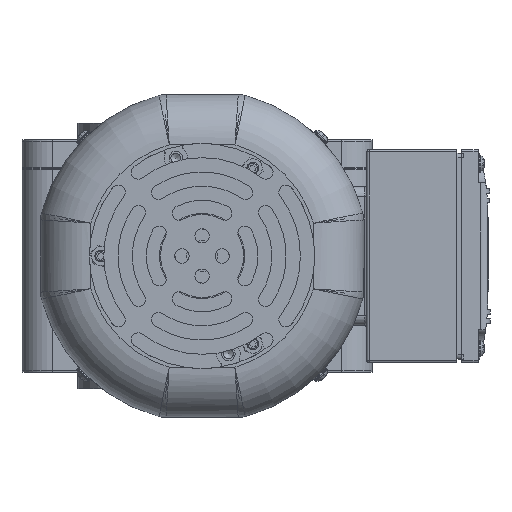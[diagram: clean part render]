
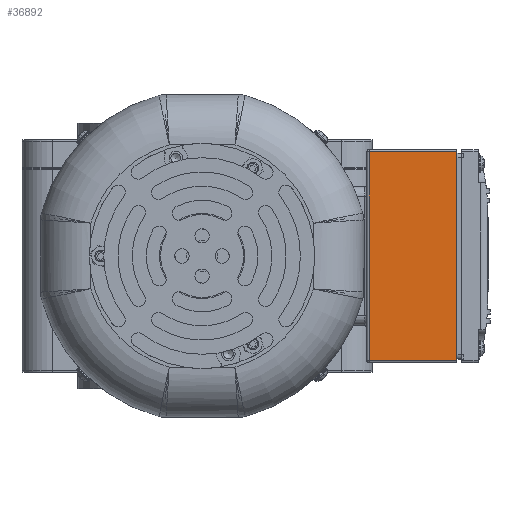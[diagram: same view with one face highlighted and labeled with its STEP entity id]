
A CAD part, left-side view. The second image highlights one B-rep face of the part: STEP entity #36892.
In plain terms, the highlighted planar face has unit normal (-1, 0, 0).
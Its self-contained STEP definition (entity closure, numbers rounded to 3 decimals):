
#3046=PLANE('',#39560);
#4257=FACE_OUTER_BOUND('',#6454,.T.);
#6454=EDGE_LOOP('',(#27611,#27612,#27613,#27614));
#9086=LINE('',#59134,#11839);
#9087=LINE('',#59136,#11840);
#9088=LINE('',#59138,#11841);
#9089=LINE('',#59139,#11842);
#11839=VECTOR('',#45667,10.);
#11840=VECTOR('',#45668,10.);
#11841=VECTOR('',#45669,10.);
#11842=VECTOR('',#45670,10.);
#16998=VERTEX_POINT('',#59132);
#16999=VERTEX_POINT('',#59133);
#17000=VERTEX_POINT('',#59135);
#17001=VERTEX_POINT('',#59137);
#20919=EDGE_CURVE('',#16998,#16999,#9086,.T.);
#20920=EDGE_CURVE('',#17000,#16998,#9087,.T.);
#20921=EDGE_CURVE('',#17000,#17001,#9088,.T.);
#20922=EDGE_CURVE('',#16999,#17001,#9089,.T.);
#27611=ORIENTED_EDGE('',*,*,#20919,.F.);
#27612=ORIENTED_EDGE('',*,*,#20920,.F.);
#27613=ORIENTED_EDGE('',*,*,#20921,.T.);
#27614=ORIENTED_EDGE('',*,*,#20922,.F.);
#36892=ADVANCED_FACE('',(#4257),#3046,.T.);
#39560=AXIS2_PLACEMENT_3D('',#59131,#45665,#45666);
#45665=DIRECTION('center_axis',(-1.,0.,0.));
#45666=DIRECTION('ref_axis',(0.,-1.,0.));
#45667=DIRECTION('',(0.,0.,1.));
#45668=DIRECTION('',(0.,1.,0.));
#45669=DIRECTION('',(0.,0.,1.));
#45670=DIRECTION('',(0.,-1.,0.));
#59131=CARTESIAN_POINT('Origin',(-250.5,-84.5,-45.065));
#59132=CARTESIAN_POINT('',(-250.5,-85.5,-44.065));
#59133=CARTESIAN_POINT('',(-250.5,-85.5,43.935));
#59134=CARTESIAN_POINT('',(-250.5,-85.5,-22.565));
#59135=CARTESIAN_POINT('',(-250.5,-122.5,-44.065));
#59136=CARTESIAN_POINT('',(-250.5,-84.5,-44.065));
#59137=CARTESIAN_POINT('',(-250.5,-122.5,43.935));
#59138=CARTESIAN_POINT('',(-250.5,-122.5,44.935));
#59139=CARTESIAN_POINT('',(-250.5,-84.5,43.935));
